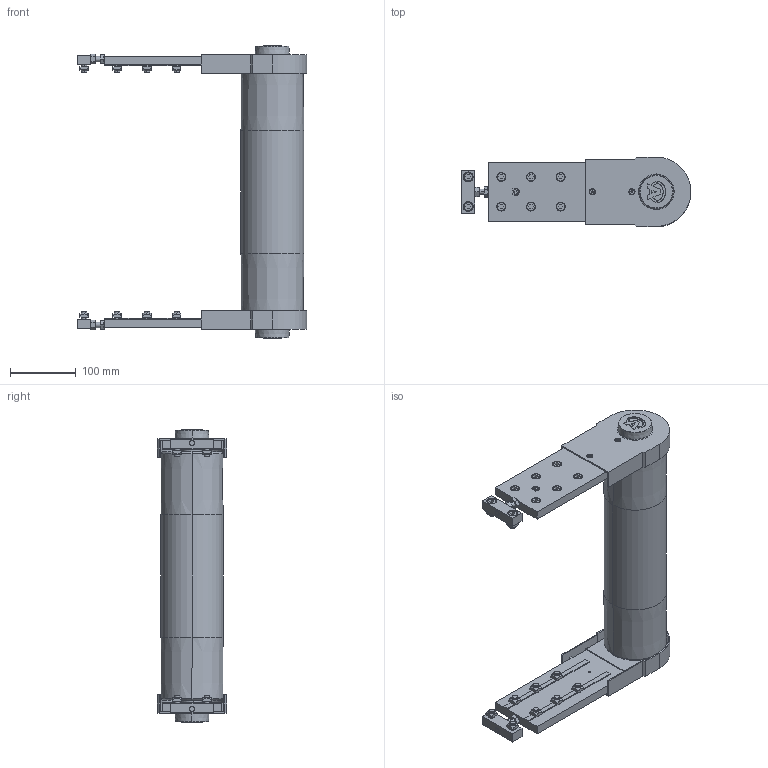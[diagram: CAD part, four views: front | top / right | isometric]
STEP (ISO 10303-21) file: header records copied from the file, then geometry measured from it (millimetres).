
FILE_DESCRIPTION (( 'STEP AP203' ), '1' );
FILE_NAME ('084.095.KI.350.STEP', '2013-10-18T09:45:03', ( '' ), ( '' ), 'SwSTEP 2.0', 'SolidWorks 2011', '' );
FILE_SCHEMA (( 'CONFIG_CONTROL_DESIGN' ));
Length unit declared in the file: millimetre
Products named in the file (12): 084.301.000 VITI ALUSIC_084.301.003; 084.302.000 DADI ALUSIC 13x13_084.302.004; 084.816.118_084.816.107<A macchina>; 084.812.003; 084.808.002_084.808.002; 084.810.003; 084.802.019_084.802.019; 084.803.003; Circlip DIN 471 - 30 x 1.5_Circlip DIN 471 - 30 x 1.5; 084.803.005-1; ISO 10642 - M4 x 12 --- 12S_ISO 10642 - M4 x 12 --- 12S; 084.095.KI.350
Assembly tree (51 placements, depth 2):
  084.095.KI.350
    084.302.000 DADI ALUSIC 13x13_084.302.004  x16
    084.802.019_084.802.019  x2
    ISO 10642 - M4 x 12 --- 12S_ISO 10642 - M4 x 12 --- 12S  x4
    084.301.000 VITI ALUSIC_084.301.003  x16
    Circlip DIN 471 - 30 x 1.5_Circlip DIN 471 - 30 x 1.5  x2
    084.808.002_084.808.002  x2
    084.803.005-1  x2
    084.810.003  x2
    084.803.003  x2
    084.812.003  x2
    084.816.118_084.816.107<A macchina>
Bounding box: 348.5 x 105 x 443 mm (x, y, z)
Volume: 1744228.8 mm3; surface area: 740376.6 mm2
Topology: 57 solids, 59 shells, 1890 faces, 4834 edges, 3126 vertices
Faces by surface type: plane 959, cylinder 471, cone 280, torus 124, bspline 48, sphere 8
Entity records: 24561 total; most frequent: CARTESIAN_POINT 4373, DIRECTION 3819, ORIENTED_EDGE 3674, EDGE_CURVE 1837, AXIS2_PLACEMENT_3D 1331, VERTEX_POINT 1201, VECTOR 1157, LINE 1157
